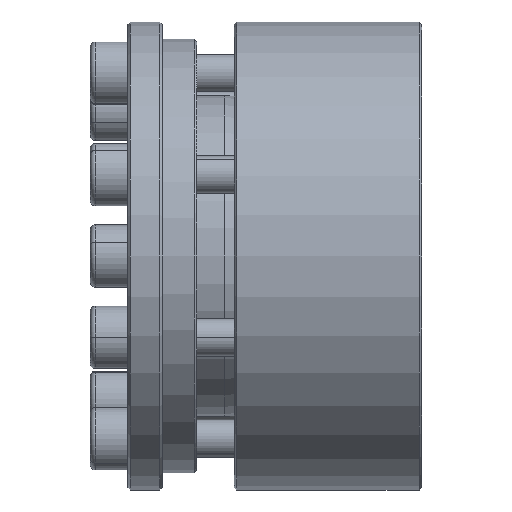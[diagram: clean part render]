
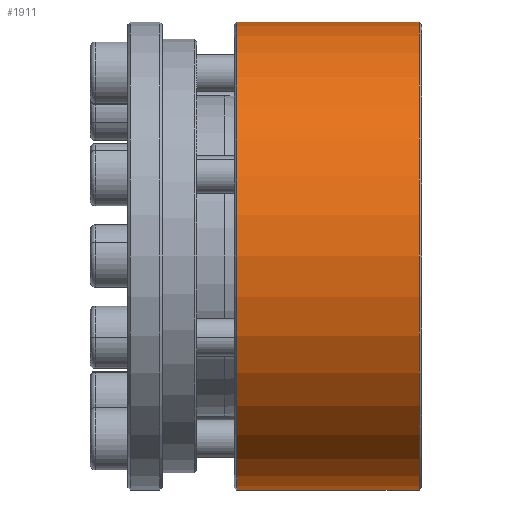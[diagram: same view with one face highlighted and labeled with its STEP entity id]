
A CAD part, front view. The second image highlights one B-rep face of the part: STEP entity #1911.
In plain terms, the highlighted cylindrical face has radius 37.45 mm (diameter 74.9 mm), a partial arc.
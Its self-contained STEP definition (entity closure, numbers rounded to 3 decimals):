
#381 = EDGE_LOOP ( 'NONE', ( #4571, #5710, #1678, #1466 ) ) ;
#418 = DIRECTION ( 'NONE',  ( 0., 0., -1. ) ) ;
#437 = CYLINDRICAL_SURFACE ( 'NONE', #4419, 37.45 ) ;
#443 = CARTESIAN_POINT ( 'NONE',  ( -88.366, 26.04, -37.45 ) ) ;
#611 = LINE ( 'NONE', #1249, #4250 ) ;
#830 = DIRECTION ( 'NONE',  ( -1., 0., 0. ) ) ;
#901 = CARTESIAN_POINT ( 'NONE',  ( -59.166, 26.04, 0. ) ) ;
#1061 = AXIS2_PLACEMENT_3D ( 'NONE', #5929, #2896, #418 ) ;
#1249 = CARTESIAN_POINT ( 'NONE',  ( -88.766, 26.04, 37.45 ) ) ;
#1319 = CIRCLE ( 'NONE', #1061, 37.45 ) ;
#1429 = LINE ( 'NONE', #7575, #6069 ) ;
#1466 = ORIENTED_EDGE ( 'NONE', *, *, #4734, .T. ) ;
#1678 = ORIENTED_EDGE ( 'NONE', *, *, #4896, .T. ) ;
#1911 = ADVANCED_FACE ( 'NONE', ( #7134 ), #437, .T. ) ;
#2171 = EDGE_CURVE ( 'NONE', #2965, #7051, #1429, .T. ) ;
#2202 = VERTEX_POINT ( 'NONE', #3867 ) ;
#2745 = DIRECTION ( 'NONE',  ( 0., 0., 1. ) ) ;
#2875 = CARTESIAN_POINT ( 'NONE',  ( -88.766, 26.04, 0. ) ) ;
#2896 = DIRECTION ( 'NONE',  ( 1., 0., 0. ) ) ;
#2965 = VERTEX_POINT ( 'NONE', #6258 ) ;
#3095 = EDGE_CURVE ( 'NONE', #2965, #6101, #7229, .T. ) ;
#3797 = AXIS2_PLACEMENT_3D ( 'NONE', #901, #5780, #2745 ) ;
#3867 = CARTESIAN_POINT ( 'NONE',  ( -88.366, 26.04, 37.45 ) ) ;
#4106 = DIRECTION ( 'NONE',  ( 0., 0., 1. ) ) ;
#4250 = VECTOR ( 'NONE', #5523, 1000. ) ;
#4419 = AXIS2_PLACEMENT_3D ( 'NONE', #2875, #6578, #4106 ) ;
#4571 = ORIENTED_EDGE ( 'NONE', *, *, #2171, .F. ) ;
#4734 = EDGE_CURVE ( 'NONE', #2202, #7051, #1319, .T. ) ;
#4896 = EDGE_CURVE ( 'NONE', #6101, #2202, #611, .T. ) ;
#5523 = DIRECTION ( 'NONE',  ( -1., 0., 0. ) ) ;
#5710 = ORIENTED_EDGE ( 'NONE', *, *, #3095, .T. ) ;
#5780 = DIRECTION ( 'NONE',  ( -1., 0., 0. ) ) ;
#5929 = CARTESIAN_POINT ( 'NONE',  ( -88.366, 26.04, 0. ) ) ;
#6069 = VECTOR ( 'NONE', #830, 1000. ) ;
#6101 = VERTEX_POINT ( 'NONE', #6638 ) ;
#6258 = CARTESIAN_POINT ( 'NONE',  ( -59.166, 26.04, -37.45 ) ) ;
#6578 = DIRECTION ( 'NONE',  ( -1., 0., 0. ) ) ;
#6638 = CARTESIAN_POINT ( 'NONE',  ( -59.166, 26.04, 37.45 ) ) ;
#7051 = VERTEX_POINT ( 'NONE', #443 ) ;
#7134 = FACE_OUTER_BOUND ( 'NONE', #381, .T. ) ;
#7229 = CIRCLE ( 'NONE', #3797, 37.45 ) ;
#7575 = CARTESIAN_POINT ( 'NONE',  ( -88.766, 26.04, -37.45 ) ) ;
